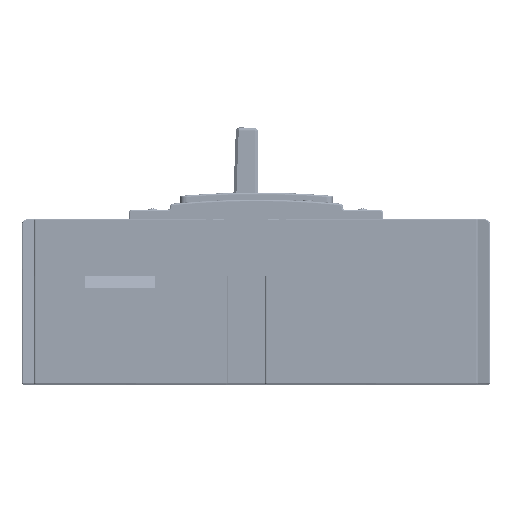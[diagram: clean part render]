
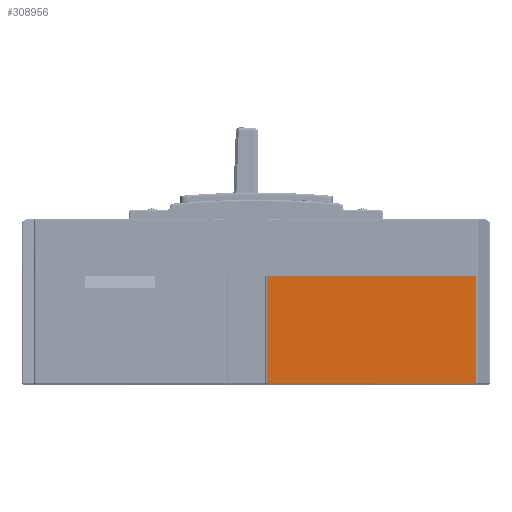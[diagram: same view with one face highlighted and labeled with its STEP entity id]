
A CAD part, front view. The second image highlights one B-rep face of the part: STEP entity #308956.
In plain terms, the highlighted planar face has unit normal (0, -1, 0).
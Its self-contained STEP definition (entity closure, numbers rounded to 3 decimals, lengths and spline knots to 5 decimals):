
#271331=DIRECTION('',(1.,0.,0.));
#271332=VECTOR('',#271331,0.12355);
#271333=CARTESIAN_POINT('',(-0.01126,-0.3373,
0.0729));
#271334=LINE('',#271333,#271332);
#278518=DIRECTION('',(-1.,0.,0.));
#278519=VECTOR('',#278518,0.12355);
#278520=CARTESIAN_POINT('',(0.11229,-0.3373,
0.0099));
#278521=LINE('',#278520,#278519);
#278587=DIRECTION('',(0.,0.,-1.));
#278588=VECTOR('',#278587,0.063);
#278589=CARTESIAN_POINT('',(0.11229,-0.3373,
0.0729));
#278590=LINE('',#278589,#278588);
#278604=DIRECTION('',(0.,0.,1.));
#278605=VECTOR('',#278604,0.063);
#278606=CARTESIAN_POINT('',(-0.01126,-0.3373,
0.0099));
#278607=LINE('',#278606,#278605);
#293784=CARTESIAN_POINT('',(0.11229,-0.3373,
0.0729));
#293785=CARTESIAN_POINT('',(0.11229,-0.3373,
0.0099));
#293786=VERTEX_POINT('',#293784);
#293787=VERTEX_POINT('',#293785);
#294877=CARTESIAN_POINT('',(-0.01126,-0.3373,
0.0099));
#294878=VERTEX_POINT('',#294877);
#294881=CARTESIAN_POINT('',(-0.01126,-0.3373,
0.0729));
#294882=VERTEX_POINT('',#294881);
#308944=CARTESIAN_POINT('',(0.11979,-0.3373,
0.0729));
#308945=DIRECTION('',(0.,1.,0.));
#308946=DIRECTION('',(0.,0.,1.));
#308947=AXIS2_PLACEMENT_3D('',#308944,#308945,#308946);
#308948=PLANE('',#308947);
#308950=ORIENTED_EDGE('',*,*,#308949,.T.);
#308951=ORIENTED_EDGE('',*,*,#299396,.T.);
#308952=ORIENTED_EDGE('',*,*,#308936,.T.);
#308953=ORIENTED_EDGE('',*,*,#308711,.T.);
#308954=EDGE_LOOP('',(#308950,#308951,#308952,#308953));
#308955=FACE_OUTER_BOUND('',#308954,.F.);
#308956=ADVANCED_FACE('',(#308955),#308948,.F.);
#299396=EDGE_CURVE('',#294882,#293786,#271334,.T.);
#308711=EDGE_CURVE('',#293787,#294878,#278521,.T.);
#308936=EDGE_CURVE('',#293786,#293787,#278590,.T.);
#308949=EDGE_CURVE('',#294878,#294882,#278607,.T.);
